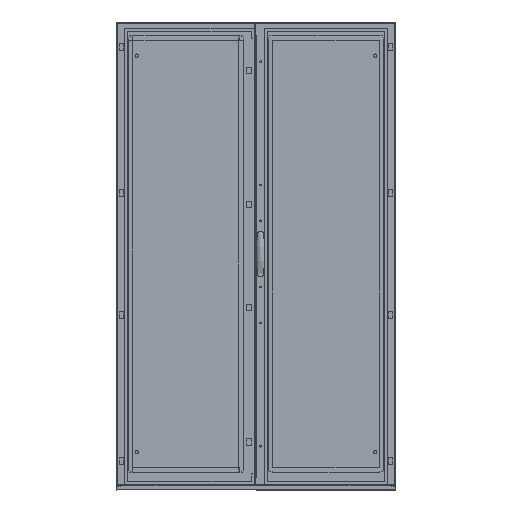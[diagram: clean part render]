
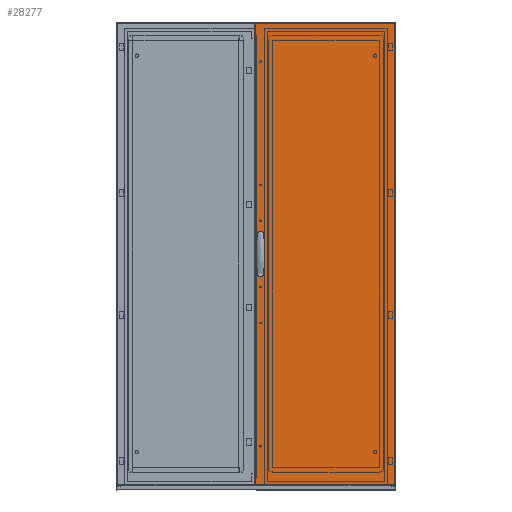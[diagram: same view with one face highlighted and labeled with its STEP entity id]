
A CAD part, top view. The second image highlights one B-rep face of the part: STEP entity #28277.
In plain terms, the highlighted planar face has unit normal (0, 0, 1) as drawn and (0, 0, -1) by its records, which use the part's own axes.
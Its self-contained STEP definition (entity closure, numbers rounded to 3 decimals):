
#359=CIRCLE('',#31890,2.6);
#360=CIRCLE('',#31891,2.6);
#2610=ORIENTED_EDGE('',*,*,#9804,.T.);
#2611=ORIENTED_EDGE('',*,*,#9805,.T.);
#2612=ORIENTED_EDGE('',*,*,#9806,.T.);
#2613=ORIENTED_EDGE('',*,*,#9807,.T.);
#2614=ORIENTED_EDGE('',*,*,#9808,.T.);
#2615=ORIENTED_EDGE('',*,*,#9809,.T.);
#2616=ORIENTED_EDGE('',*,*,#9810,.T.);
#2617=ORIENTED_EDGE('',*,*,#9811,.T.);
#2618=ORIENTED_EDGE('',*,*,#9812,.T.);
#2619=ORIENTED_EDGE('',*,*,#9813,.T.);
#2620=ORIENTED_EDGE('',*,*,#9814,.T.);
#2621=ORIENTED_EDGE('',*,*,#9815,.T.);
#2622=ORIENTED_EDGE('',*,*,#9816,.T.);
#2623=ORIENTED_EDGE('',*,*,#9817,.T.);
#2624=ORIENTED_EDGE('',*,*,#9818,.T.);
#2625=ORIENTED_EDGE('',*,*,#9819,.T.);
#2626=ORIENTED_EDGE('',*,*,#9820,.T.);
#2627=ORIENTED_EDGE('',*,*,#9821,.F.);
#2628=ORIENTED_EDGE('',*,*,#9822,.F.);
#2629=ORIENTED_EDGE('',*,*,#9823,.T.);
#2630=ORIENTED_EDGE('',*,*,#9824,.T.);
#2631=ORIENTED_EDGE('',*,*,#9825,.T.);
#9804=EDGE_CURVE('',#13560,#13561,#16425,.T.);
#9805=EDGE_CURVE('',#13561,#13562,#16426,.T.);
#9806=EDGE_CURVE('',#13562,#13563,#16427,.T.);
#9807=EDGE_CURVE('',#13563,#13564,#16428,.T.);
#9808=EDGE_CURVE('',#13564,#13565,#16429,.T.);
#9809=EDGE_CURVE('',#13565,#13566,#16430,.T.);
#9810=EDGE_CURVE('',#13566,#13567,#16431,.T.);
#9811=EDGE_CURVE('',#13567,#13568,#16432,.T.);
#9812=EDGE_CURVE('',#13568,#13569,#16433,.T.);
#9813=EDGE_CURVE('',#13569,#13570,#16434,.T.);
#9814=EDGE_CURVE('',#13570,#13571,#16435,.T.);
#9815=EDGE_CURVE('',#13571,#13572,#16436,.T.);
#9816=EDGE_CURVE('',#13572,#13573,#16437,.T.);
#9817=EDGE_CURVE('',#13573,#13574,#16438,.T.);
#9818=EDGE_CURVE('',#13574,#13575,#16439,.T.);
#9819=EDGE_CURVE('',#13575,#13560,#16440,.T.);
#9820=EDGE_CURVE('',#13576,#13577,#16441,.T.);
#9821=EDGE_CURVE('',#13578,#13577,#16442,.T.);
#9822=EDGE_CURVE('',#13579,#13578,#16443,.T.);
#9823=EDGE_CURVE('',#13579,#13576,#16444,.T.);
#9824=EDGE_CURVE('',#13580,#13580,#359,.T.);
#9825=EDGE_CURVE('',#13581,#13581,#360,.T.);
#13560=VERTEX_POINT('',#42935);
#13561=VERTEX_POINT('',#42936);
#13562=VERTEX_POINT('',#42938);
#13563=VERTEX_POINT('',#42940);
#13564=VERTEX_POINT('',#42942);
#13565=VERTEX_POINT('',#42944);
#13566=VERTEX_POINT('',#42946);
#13567=VERTEX_POINT('',#42948);
#13568=VERTEX_POINT('',#42950);
#13569=VERTEX_POINT('',#42952);
#13570=VERTEX_POINT('',#42954);
#13571=VERTEX_POINT('',#42956);
#13572=VERTEX_POINT('',#42958);
#13573=VERTEX_POINT('',#42960);
#13574=VERTEX_POINT('',#42962);
#13575=VERTEX_POINT('',#42964);
#13576=VERTEX_POINT('',#42967);
#13577=VERTEX_POINT('',#42968);
#13578=VERTEX_POINT('',#42970);
#13579=VERTEX_POINT('',#42972);
#13580=VERTEX_POINT('',#42975);
#13581=VERTEX_POINT('',#42977);
#16425=LINE('',#42934,#20034);
#16426=LINE('',#42937,#20035);
#16427=LINE('',#42939,#20036);
#16428=LINE('',#42941,#20037);
#16429=LINE('',#42943,#20038);
#16430=LINE('',#42945,#20039);
#16431=LINE('',#42947,#20040);
#16432=LINE('',#42949,#20041);
#16433=LINE('',#42951,#20042);
#16434=LINE('',#42953,#20043);
#16435=LINE('',#42955,#20044);
#16436=LINE('',#42957,#20045);
#16437=LINE('',#42959,#20046);
#16438=LINE('',#42961,#20047);
#16439=LINE('',#42963,#20048);
#16440=LINE('',#42965,#20049);
#16441=LINE('',#42966,#20050);
#16442=LINE('',#42969,#20051);
#16443=LINE('',#42971,#20052);
#16444=LINE('',#42973,#20053);
#20034=VECTOR('',#35135,1000.);
#20035=VECTOR('',#35136,1000.);
#20036=VECTOR('',#35137,1000.);
#20037=VECTOR('',#35138,1000.);
#20038=VECTOR('',#35139,1000.);
#20039=VECTOR('',#35140,1000.);
#20040=VECTOR('',#35141,1000.);
#20041=VECTOR('',#35142,1000.);
#20042=VECTOR('',#35143,1000.);
#20043=VECTOR('',#35144,1000.);
#20044=VECTOR('',#35145,1000.);
#20045=VECTOR('',#35146,1000.);
#20046=VECTOR('',#35147,1000.);
#20047=VECTOR('',#35148,1000.);
#20048=VECTOR('',#35149,1000.);
#20049=VECTOR('',#35150,1000.);
#20050=VECTOR('',#35151,1000.);
#20051=VECTOR('',#35152,1000.);
#20052=VECTOR('',#35153,1000.);
#20053=VECTOR('',#35154,1000.);
#23375=EDGE_LOOP('',(#2610,#2611,#2612,#2613,#2614,#2615,#2616,#2617,#2618,
#2619,#2620,#2621,#2622,#2623,#2624,#2625));
#23376=EDGE_LOOP('',(#2626,#2627,#2628,#2629));
#23377=EDGE_LOOP('',(#2630));
#23378=EDGE_LOOP('',(#2631));
#25207=FACE_BOUND('',#23375,.T.);
#25208=FACE_BOUND('',#23376,.T.);
#25209=FACE_BOUND('',#23377,.T.);
#25210=FACE_BOUND('',#23378,.T.);
#26871=PLANE('',#31889);
#28277=ADVANCED_FACE('',(#25207,#25208,#25209,#25210),#26871,.F.);
#31889=AXIS2_PLACEMENT_3D('',#42933,#35133,#35134);
#31890=AXIS2_PLACEMENT_3D('',#42974,#35155,#35156);
#31891=AXIS2_PLACEMENT_3D('',#42976,#35157,#35158);
#35133=DIRECTION('',(0.,0.,1.));
#35134=DIRECTION('',(1.,0.,0.));
#35135=DIRECTION('',(0.,-1.,0.));
#35136=DIRECTION('',(0.342,-0.94,0.));
#35137=DIRECTION('',(1.,0.,0.));
#35138=DIRECTION('',(0.,1.,0.));
#35139=DIRECTION('',(1.,0.,0.));
#35140=DIRECTION('',(0.,-1.,0.));
#35141=DIRECTION('',(1.,0.,0.));
#35142=DIRECTION('',(0.342,0.94,0.));
#35143=DIRECTION('',(0.,1.,0.));
#35144=DIRECTION('',(-0.342,0.94,0.));
#35145=DIRECTION('',(-1.,0.,0.));
#35146=DIRECTION('',(0.,-1.,0.));
#35147=DIRECTION('',(-1.,0.,0.));
#35148=DIRECTION('',(0.,1.,0.));
#35149=DIRECTION('',(-1.,0.,0.));
#35150=DIRECTION('',(-0.342,-0.94,0.));
#35151=DIRECTION('',(-1.,0.,0.));
#35152=DIRECTION('',(0.,-1.,0.));
#35153=DIRECTION('',(-1.,0.,0.));
#35154=DIRECTION('',(0.,-1.,0.));
#35155=DIRECTION('',(0.,0.,1.));
#35156=DIRECTION('',(1.,0.,0.));
#35157=DIRECTION('',(0.,0.,1.));
#35158=DIRECTION('',(1.,0.,0.));
#42933=CARTESIAN_POINT('',(299.,1982.,-16.8));
#42934=CARTESIAN_POINT('',(265.45,1056.256,-16.8));
#42935=CARTESIAN_POINT('',(265.45,1056.256,-16.8));
#42936=CARTESIAN_POINT('',(265.45,925.744,-16.8));
#42937=CARTESIAN_POINT('',(265.45,925.744,-16.8));
#42938=CARTESIAN_POINT('',(267.45,920.25,-16.8));
#42939=CARTESIAN_POINT('',(267.45,920.25,-16.8));
#42940=CARTESIAN_POINT('',(272.7,920.25,-16.8));
#42941=CARTESIAN_POINT('',(272.7,920.25,-16.8));
#42942=CARTESIAN_POINT('',(272.7,928.,-16.8));
#42943=CARTESIAN_POINT('',(272.7,928.,-16.8));
#42944=CARTESIAN_POINT('',(283.7,928.,-16.8));
#42945=CARTESIAN_POINT('',(283.7,928.,-16.8));
#42946=CARTESIAN_POINT('',(283.7,920.25,-16.8));
#42947=CARTESIAN_POINT('',(283.7,920.25,-16.8));
#42948=CARTESIAN_POINT('',(288.95,920.25,-16.8));
#42949=CARTESIAN_POINT('',(288.95,920.25,-16.8));
#42950=CARTESIAN_POINT('',(290.95,925.744,-16.8));
#42951=CARTESIAN_POINT('',(290.95,925.744,-16.8));
#42952=CARTESIAN_POINT('',(290.95,1056.256,-16.8));
#42953=CARTESIAN_POINT('',(290.95,1056.256,-16.8));
#42954=CARTESIAN_POINT('',(288.95,1061.75,-16.8));
#42955=CARTESIAN_POINT('',(288.95,1061.75,-16.8));
#42956=CARTESIAN_POINT('',(283.7,1061.75,-16.8));
#42957=CARTESIAN_POINT('',(283.7,1061.75,-16.8));
#42958=CARTESIAN_POINT('',(283.7,1054.,-16.8));
#42959=CARTESIAN_POINT('',(283.7,1054.,-16.8));
#42960=CARTESIAN_POINT('',(272.7,1054.,-16.8));
#42961=CARTESIAN_POINT('',(272.7,1054.,-16.8));
#42962=CARTESIAN_POINT('',(272.7,1061.75,-16.8));
#42963=CARTESIAN_POINT('',(272.7,1061.75,-16.8));
#42964=CARTESIAN_POINT('',(267.45,1061.75,-16.8));
#42965=CARTESIAN_POINT('',(267.45,1061.75,-16.8));
#42966=CARTESIAN_POINT('',(299.,0.,-16.8));
#42967=CARTESIAN_POINT('',(299.,0.,-16.8));
#42968=CARTESIAN_POINT('',(-299.,0.,-16.8));
#42969=CARTESIAN_POINT('',(-299.,1982.,-16.8));
#42970=CARTESIAN_POINT('',(-299.,1982.,-16.8));
#42971=CARTESIAN_POINT('',(299.,1982.,-16.8));
#42972=CARTESIAN_POINT('',(299.,1982.,-16.8));
#42973=CARTESIAN_POINT('',(299.,1982.,-16.8));
#42974=CARTESIAN_POINT('',(278.2,1061.,-16.8));
#42975=CARTESIAN_POINT('',(280.8,1061.,-16.8));
#42976=CARTESIAN_POINT('',(278.2,921.,-16.8));
#42977=CARTESIAN_POINT('',(280.8,921.,-16.8));
